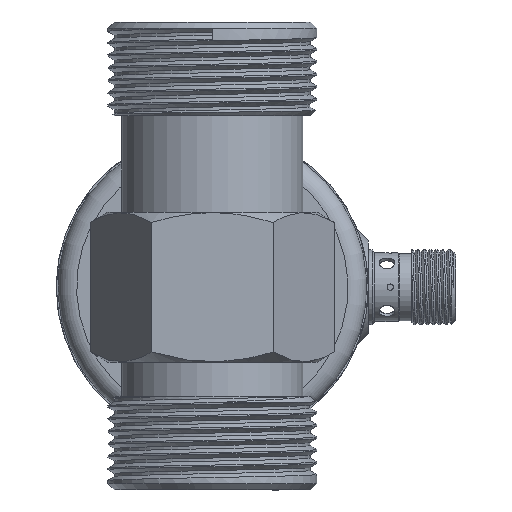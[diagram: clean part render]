
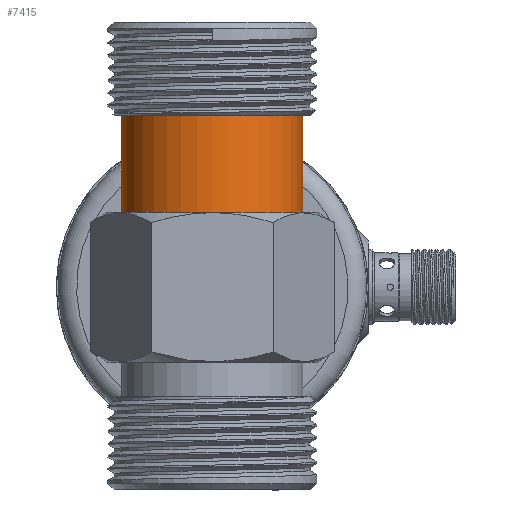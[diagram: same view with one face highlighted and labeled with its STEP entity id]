
A CAD part, front view. The second image highlights one B-rep face of the part: STEP entity #7415.
In plain terms, the highlighted cylindrical face has radius 14.5 mm (diameter 29 mm), a full revolution.
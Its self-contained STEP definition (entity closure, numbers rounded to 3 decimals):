
#1505 = FACE_OUTER_BOUND ( 'NONE', #19838, .T. ) ;
#3464 = DIRECTION ( 'NONE',  ( 1., 0., 0. ) ) ;
#5634 = VERTEX_POINT ( 'NONE', #24372 ) ;
#5700 = CARTESIAN_POINT ( 'NONE',  ( 0., 0., 37.5 ) ) ;
#6889 = DIRECTION ( 'NONE',  ( 0., 0., 1. ) ) ;
#7397 = EDGE_CURVE ( 'NONE', #5634, #5634, #17530, .T. ) ;
#7405 = CYLINDRICAL_SURFACE ( 'NONE', #13930, 14.5 ) ;
#7415 = ADVANCED_FACE ( 'NONE', ( #12046, #1505 ), #7405, .T. ) ;
#7540 = DIRECTION ( 'NONE',  ( 0., 0., -1. ) ) ;
#8202 = CIRCLE ( 'NONE', #18997, 14.5 ) ;
#9041 = AXIS2_PLACEMENT_3D ( 'NONE', #20350, #22611, #3464 ) ;
#11744 = ORIENTED_EDGE ( 'NONE', *, *, #20823, .T. ) ;
#12046 = FACE_OUTER_BOUND ( 'NONE', #13627, .T. ) ;
#13627 = EDGE_LOOP ( 'NONE', ( #11744 ) ) ;
#13930 = AXIS2_PLACEMENT_3D ( 'NONE', #5700, #7540, #15994 ) ;
#15747 = ORIENTED_EDGE ( 'NONE', *, *, #7397, .F. ) ;
#15994 = DIRECTION ( 'NONE',  ( -1., 0., 0. ) ) ;
#17530 = CIRCLE ( 'NONE', #9041, 14.5 ) ;
#18146 = CARTESIAN_POINT ( 'NONE',  ( 14.5, 0., 7. ) ) ;
#18997 = AXIS2_PLACEMENT_3D ( 'NONE', #24342, #6889, #24210 ) ;
#19838 = EDGE_LOOP ( 'NONE', ( #15747 ) ) ;
#20350 = CARTESIAN_POINT ( 'NONE',  ( 0., 0., 22.5 ) ) ;
#20823 = EDGE_CURVE ( 'NONE', #26862, #26862, #8202, .T. ) ;
#22611 = DIRECTION ( 'NONE',  ( 0., 0., 1. ) ) ;
#24210 = DIRECTION ( 'NONE',  ( 1., 0., 0. ) ) ;
#24342 = CARTESIAN_POINT ( 'NONE',  ( 0., 0., 7. ) ) ;
#24372 = CARTESIAN_POINT ( 'NONE',  ( 14.5, 0., 22.5 ) ) ;
#26862 = VERTEX_POINT ( 'NONE', #18146 ) ;
